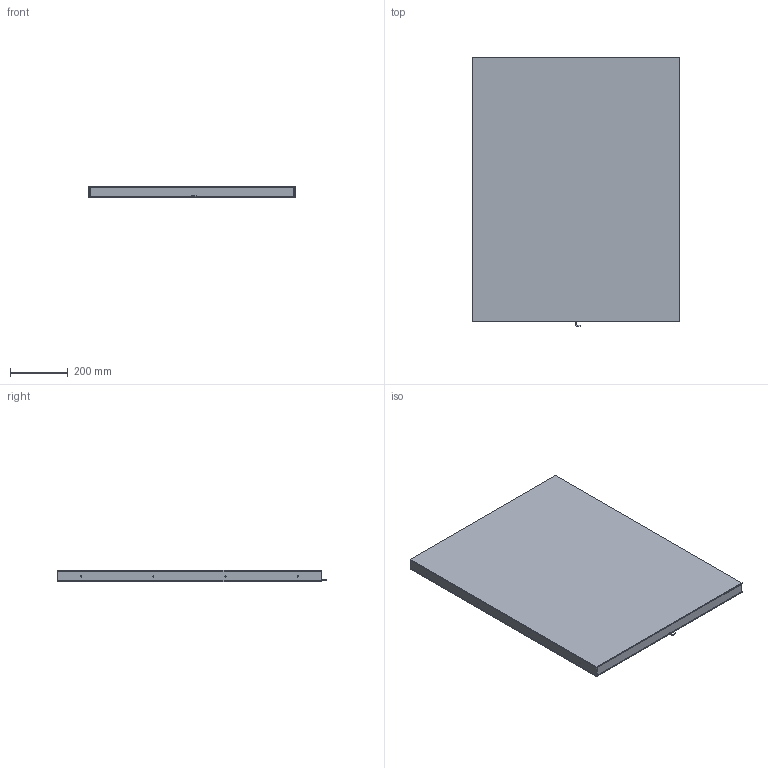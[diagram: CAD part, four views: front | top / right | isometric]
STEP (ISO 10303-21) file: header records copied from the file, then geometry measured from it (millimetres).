
FILE_DESCRIPTION (( 'STEP AP203' ), '1' );
FILE_NAME ('CRT-FLD900700-¼òÒ×3DÍ¼.STEP', '2021-11-23T08:40:50', ( 'Admin' ), ( '' ), 'SwSTEP 2.0', 'SolidWorks 2018', '' );
FILE_SCHEMA (( 'CONFIG_CONTROL_DESIGN' ));
Length unit declared in the file: millimetre
Products named in the file (1): CRT-FLD900700-潠眢3D芞
Bounding box: 714 x 931.75 x 41 mm (x, y, z)
Surface area: 1437186.9 mm2 (no closed solid volume)
Topology: 0 solids, 9 shells, 46 faces, 152 edges, 114 vertices
Faces by surface type: plane 24, cylinder 20, bspline 2
Entity records: 1786 total; most frequent: CARTESIAN_POINT 399, DIRECTION 279, ORIENTED_EDGE 210, EDGE_CURVE 152, VERTEX_POINT 114, LINE 107, VECTOR 107, AXIS2_PLACEMENT_3D 86
